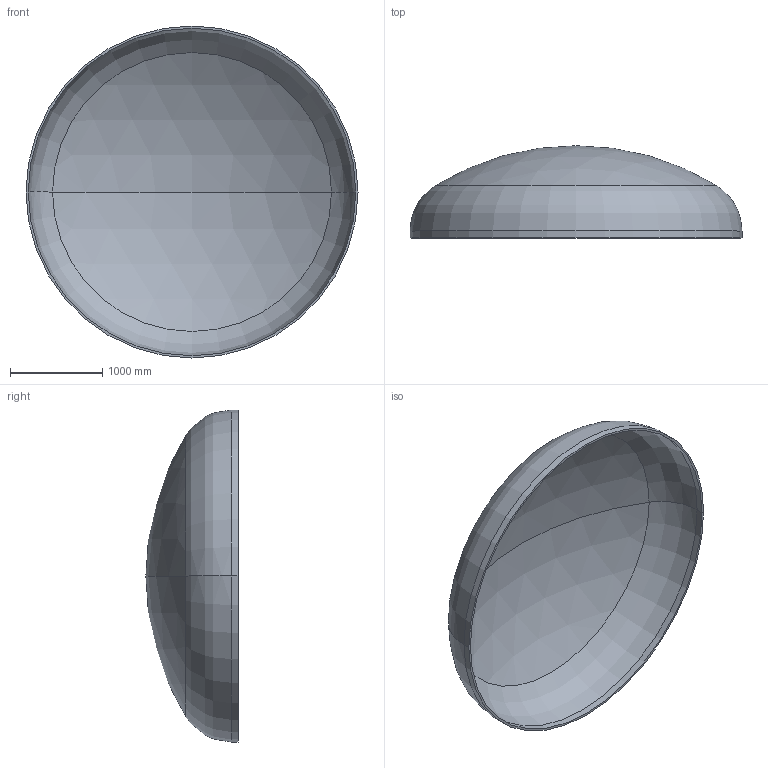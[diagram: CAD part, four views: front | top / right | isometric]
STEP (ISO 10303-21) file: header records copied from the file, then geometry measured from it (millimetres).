
FILE_DESCRIPTION (( 'STEP AP203' ), '1' );
FILE_NAME ('DIN 28013 Korbbogenform_-_Boden DIN 28013 - 3600 x 75 - I - s=24.step', '2016-07-01T20:13:51', ( '' ), ( '' ), 'SwSTEP 2.0', 'SolidWorks 2013', '' );
FILE_SCHEMA (( 'CONFIG_CONTROL_DESIGN' ));
Length unit declared in the file: millimetre
Products named in the file (1): DIN 28013 Korbbogenform_-_Boden DIN 28013 - 3600 x 75 - I - s=24
Bounding box: 3600 x 1000.42 x 3600 mm (x, y, z)
Volume: 355667233.9 mm3; surface area: 29909755.1 mm2
Topology: 1 solids, 1 shells, 13 faces, 24 edges, 14 vertices
Faces by surface type: torus 4, cylinder 4, sphere 4, plane 1
Entity records: 407 total; most frequent: DIRECTION 72, CARTESIAN_POINT 52, ORIENTED_EDGE 48, AXIS2_PLACEMENT_3D 34, EDGE_CURVE 24, CIRCLE 20, EDGE_LOOP 14, VERTEX_POINT 14
